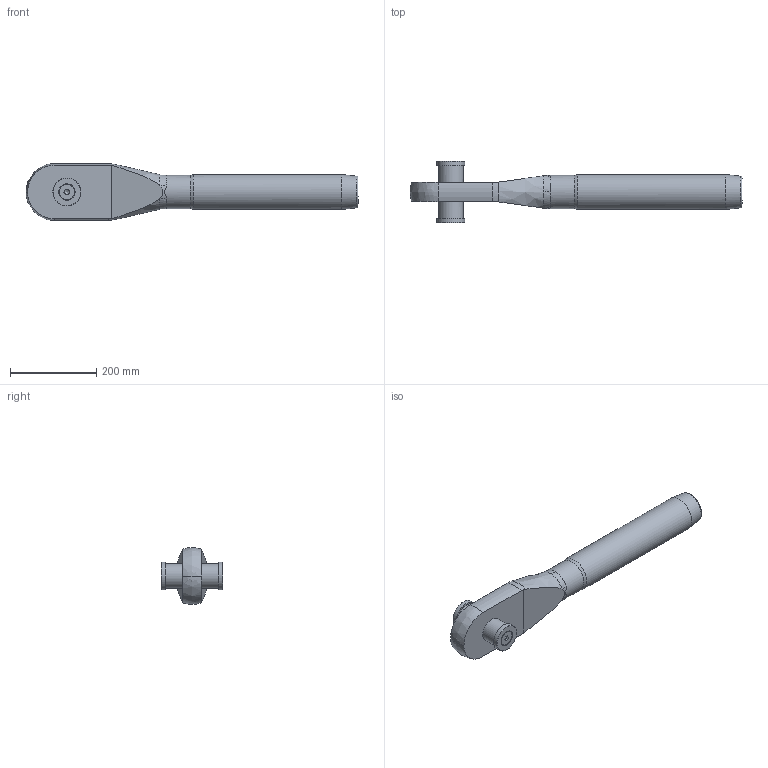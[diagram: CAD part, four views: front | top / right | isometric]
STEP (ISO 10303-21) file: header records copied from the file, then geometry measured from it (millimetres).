
FILE_DESCRIPTION(/* description */ (''),/* implementation_level */ '2;1');
FILE_NAME(/* name */ 'MCC 42_42CrMo4',/* time_stamp */ '2023-05-23T15:41:08+02:00',/* author */ (''),/* organization */ (''),/* preprocessor_version */ 'ST-DEVELOPER v16.5',/* originating_system */ 'Rhino 7.22',/* authorisation */ '');
FILE_SCHEMA (('CONFIG_CONTROL_DESIGN'));
Length unit declared in the file: millimetre
Products named in the file (1): Document
Bounding box: 771 x 143.57 x 131.99 mm (x, y, z)
Volume: 4272005.6 mm3; surface area: 278883.6 mm2
Topology: 6 solids, 6 shells, 74 faces, 203 edges, 135 vertices
Faces by surface type: bspline 31, plane 27, cylinder 16
Full cylindrical faces by diameter (mm): 17.294 x2, 20 x2, 21 x2, 35.4 x2, 57 x1, 58 x1, 65 x2, 77 x1, 81 x1
Entity records: 3250 total; most frequent: CARTESIAN_POINT 1995, ORIENTED_EDGE 386, EDGE_CURVE 193, VERTEX_POINT 135, EDGE_LOOP 84, ADVANCED_FACE 74, FACE_OUTER_BOUND 74, B_SPLINE_CURVE_WITH_KNOTS 64
